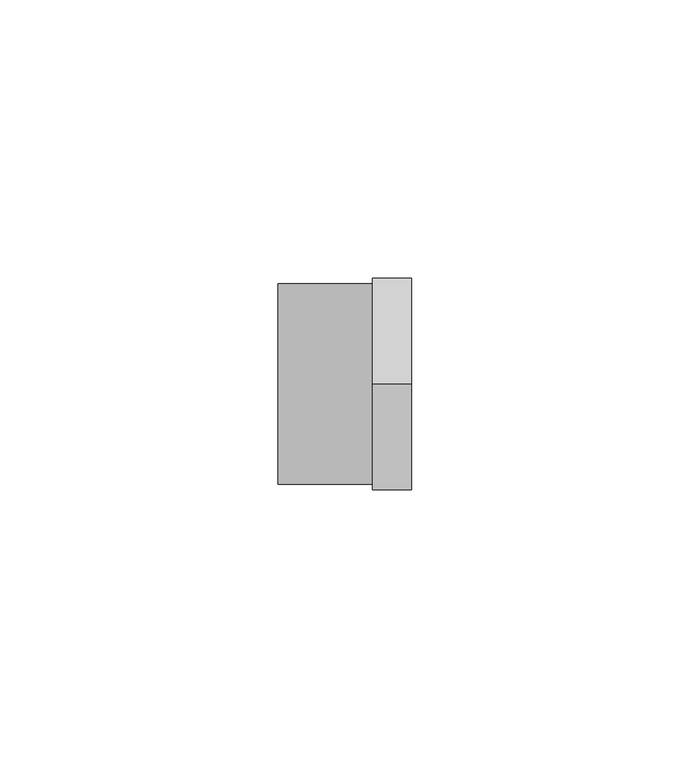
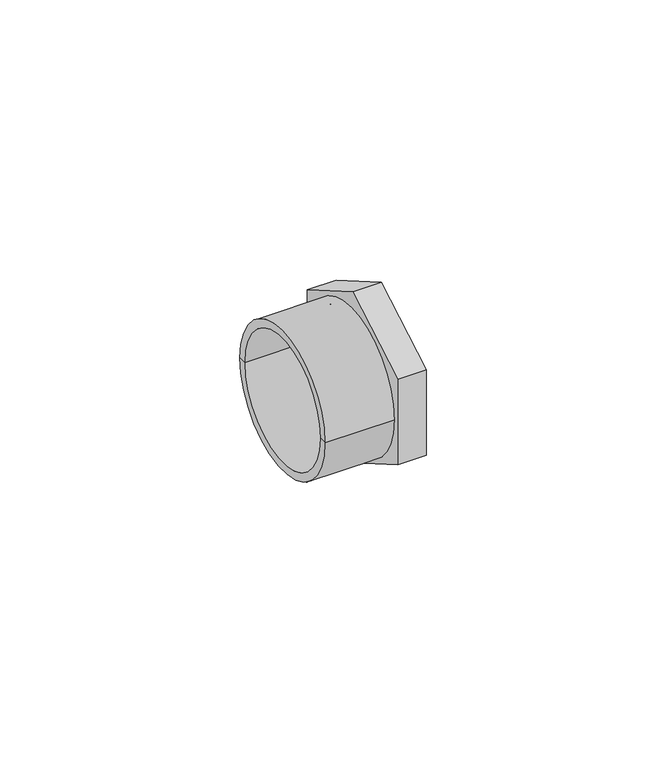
"""IFC4 building model written with IfcOpenShell, lengths in millimetres: pipe fitting geometry."""

from ifc_helpers import new_model, si_unit, frame, origin, place, context, project, spatial, polyline, circle_curve, outline, extrude, source, transform, mapped, element, save
from ifc_brep_helpers import plane_surface, cylinder_surface, revolved_surface, advanced_brep


def pipe_fitting_b5bb4540(model_context):
    return source(origin(), model_context, "Body", "SolidModel", [
        extrude(outline(polyline([(-19.0, -10.9696551), (-19.0, 10.9696551), (0.0, 21.9393102), (19.0, 10.9696551), (19.0, -10.9696551), (0.0, -21.9393102), (-19.0, -10.9696551)])), frame((-7.0, 0.0, 0.0), z_axis=(1.0, 0.0, 0.0), x_axis=(0.0, 1.0, 0.0)), (0.0, 0.0, 1.0), 7.0),
        advanced_brep(
        [(-24.0, -18.0, 0.0), (-24.0, 18.0, 0.0), (-7.0, 18.0, 0.0), (-7.0, -18.0, 0.0), (-24.0, -16.0, 0.0), (-24.0, 16.0, 0.0), (-7.0, -16.0, 0.0), (-7.0, 16.0, 0.0)],
        [
            (0, 1, circle_curve(frame((-24.0, 0.0, 0.0), z_axis=(1.0, 0.0, 0.0), x_axis=(0.0, 1.0, 0.0)), 18.0)),
            (1, 2),
            (2, 3, circle_curve(frame((-7.0, 0.0, 0.0), z_axis=(-1.0, 0.0, 0.0), x_axis=(0.0, 1.0, 0.0)), 18.0)),
            (3, 0),
            (1, 0, circle_curve(frame((-24.0, 0.0, 0.0), z_axis=(1.0, 0.0, 0.0), x_axis=(0.0, 1.0, 0.0)), 18.0)),
            (3, 2, circle_curve(frame((-7.0, 0.0, 0.0), z_axis=(-1.0, 0.0, 0.0), x_axis=(0.0, 1.0, 0.0)), 18.0)),
            (4, 5, circle_curve(frame((-24.0, 0.0, 0.0), z_axis=(1.0, 0.0, 0.0), x_axis=(0.0, 1.0, 0.0)), 16.0)),
            (5, 1),
            (0, 4),
            (5, 4, circle_curve(frame((-24.0, 0.0, 0.0), z_axis=(1.0, 0.0, 0.0), x_axis=(0.0, 1.0, 0.0)), 16.0)),
            (6, 7, circle_curve(frame((-7.0, 0.0, 0.0), z_axis=(1.0, 0.0, 0.0), x_axis=(0.0, 1.0, 0.0)), 16.0)),
            (7, 5),
            (4, 6),
            (7, 6, circle_curve(frame((-7.0, 0.0, 0.0), z_axis=(1.0, 0.0, 0.0), x_axis=(0.0, 1.0, 0.0)), 16.0)),
            (2, 7),
            (6, 3),
        ],
        [
            cylinder_surface(frame((-27.494729, 0.0, 0.0), z_axis=(-1.0, 0.0, 0.0), x_axis=(0.0, 1.0, 0.0)), 18.0),
            plane_surface(frame((-24.0, 0.0, 0.0), z_axis=(-1.0, 0.0, 0.0), x_axis=(0.0, 1.0, 0.0))),
            revolved_surface(polyline([(-24.0, 16.0, 0.0), (-7.0, 16.0, 0.0)]), (-27.494729, 0.0, 0.0), (-1.0, 0.0, 0.0)),
            plane_surface(frame((-7.0, 0.0, 0.0), z_axis=(1.0, 0.0, 0.0), x_axis=(0.0, 1.0, 0.0))),
        ],
        [
            (0, [[1, 2, 3, 4]]),
            (0, [[5, -4, 6, -2]]),
            (1, [[7, 8, -1, 9]]),
            (1, [[10, -9, -5, -8]]),
            (2, [[11, 12, -7, 13]]),
            (2, [[14, -13, -10, -12]]),
            (3, [[-3, 15, -11, 16]]),
            (3, [[-6, -16, -14, -15]]),
        ],
    ),
    ])


if __name__ == "__main__":
    model = new_model("IFC4")
    model_context = context("Model", 3, world=origin())
    ifc_project = project(units=[si_unit("LENGTHUNIT", "METRE", prefix="MILLI")], contexts=[model_context])
    site = spatial("IfcSite", under=ifc_project)
    building = spatial("IfcBuilding", under=site)
    placement = place(None, origin())
    pipe_fitting_shape = pipe_fitting_b5bb4540(model_context)
    element("IfcPipeFitting", 1, ObjectType="NLRS_50_PIF_UN_eindkap met binnendraad (messing)_geb : DN20-25 / Rp3/4\"-Rp1\"", at=placement, inside=building, context=model_context, shape_type="MappedRepresentation", body=[
        mapped(pipe_fitting_shape, transform((0.0, 0.0, 0.0), x_axis=(1.0, 0.0, 0.0), y_axis=(0.0, 1.0, 0.0), z_axis=(0.0, 0.0, 1.0))),
    ])
    save(model, "model.ifc")
